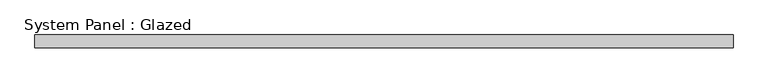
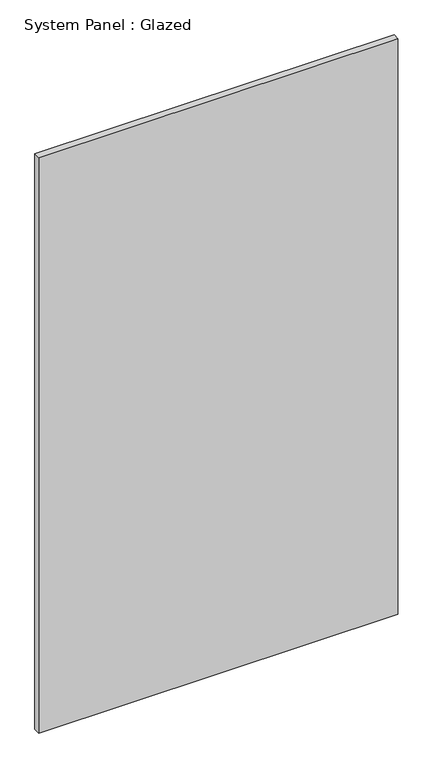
"""IFC4 building model written with IfcOpenShell, lengths in millimetres: plate geometry, System Panel : Glazed."""

import ifcopenshell
import ifcopenshell.guid

model = None  # the IFC model being written
_history = None  # IfcOwnerHistory: only IFC2X3 demands one
_inside = {}  # id of a spatial element -> (the spatial element, [elements in it])
_under = {}  # id of a project, library or spatial element -> (it, [spatial elements below it])
_declared = {}  # id of a project -> (the project, [libraries it declares])
_typed = {}  # id of a type object -> (the type object, [elements of that type])
_made_of = {}  # id of a material, layer set ... -> (it, [elements and type objects made of it])


def new_model(schema):
    """Start an empty IFC model of exactly this schema.

    Asked for "IFC4X3", IfcOpenShell would pick the latest addendum, in which some entities
    have other attributes; the version numbers below select the first issue.
    IFC2X3 requires an IfcOwnerHistory on every rooted entity: one is made here for all.
    """
    global model, _history
    if schema == "IFC4X3":
        model = ifcopenshell.file(schema_version=(4, 3, 0, 0))
    else:
        model = ifcopenshell.file(schema=schema)
    _inside.clear()
    _under.clear()
    _declared.clear()
    _typed.clear()
    _made_of.clear()
    _history = None
    if model.schema == "IFC2X3":
        org = make("IfcOrganization", Name="unknown")
        user = make(
            "IfcPersonAndOrganization",
            ThePerson=make("IfcPerson", FamilyName="unknown"),
            TheOrganization=org,
        )
        app = make(
            "IfcApplication",
            ApplicationDeveloper=org,
            Version="unknown",
            ApplicationFullName="unknown",
            ApplicationIdentifier="unknown",
        )
        _history = make(
            "IfcOwnerHistory",
            OwningUser=user,
            OwningApplication=app,
            ChangeAction="ADDED",
            CreationDate=0,
        )
    return model


def make(cls, **values):
    """One entity of the class cls with the attributes given. An attribute that is None is left unset."""
    return model.create_entity(
        cls, **{name: value for name, value in values.items() if value is not None}
    )


def rooted(cls, **values):
    """An entity with a GlobalId (a new one), such as an element, a storey or a relation."""
    return make(cls, GlobalId=ifcopenshell.guid.new(), OwnerHistory=_history, **values)


def si_unit(unit_type, name, prefix=None):
    """IfcSIUnit, for example si_unit("LENGTHUNIT", "METRE", prefix="MILLI")."""
    return make("IfcSIUnit", UnitType=unit_type, Prefix=prefix, Name=name)


def assignment(units):
    """IfcUnitAssignment: the units of a project."""
    return None if units is None else make("IfcUnitAssignment", Units=units)


def point(xyz):
    """IfcCartesianPoint."""
    return None if xyz is None else make("IfcCartesianPoint", Coordinates=xyz)


def direction(xyz):
    """IfcDirection."""
    return None if xyz is None else make("IfcDirection", DirectionRatios=xyz)


def frame(location, z_axis=None, x_axis=None):
    """IfcAxis2Placement3D, a coordinate frame: its origin and axes. An axis left out is left unset."""
    return make(
        "IfcAxis2Placement3D",
        Location=point(location),
        Axis=direction(z_axis),
        RefDirection=direction(x_axis),
    )


def origin():
    """The frame at (0, 0, 0) with its axes left unset."""
    return frame((0.0, 0.0, 0.0))


def origin_with_axes():
    """The frame at (0, 0, 0) with the z axis (0, 0, 1) and the x axis (1, 0, 0) written out."""
    return frame((0.0, 0.0, 0.0), z_axis=(0.0, 0.0, 1.0), x_axis=(1.0, 0.0, 0.0))


def place(relative_to, where):
    """IfcLocalPlacement: puts the frame where relative to a parent placement (None: the world)."""
    return make(
        "IfcLocalPlacement", PlacementRelTo=relative_to, RelativePlacement=where
    )


def context(
    kind, dimensions, precision=None, world=None, true_north=None, identifier=None
):
    """IfcGeometricRepresentationContext, for example the 3D "Model" context."""
    return make(
        "IfcGeometricRepresentationContext",
        ContextIdentifier=identifier,
        ContextType=kind,
        CoordinateSpaceDimension=dimensions,
        Precision=precision,
        WorldCoordinateSystem=world,
        TrueNorth=true_north,
    )


def project(units=None, contexts=None):
    """IfcProject with its units and contexts."""
    return rooted(
        "IfcProject",
        Name="project",
        RepresentationContexts=contexts,
        UnitsInContext=assignment(units),
    )


def spatial(cls, under=None, at=None, **own):
    """A site, building, storey or space (cls), placed at a placement, below another one or the project."""
    s = rooted(cls, ObjectPlacement=at, **own)
    if under is not None:
        _under.setdefault(under.id(), (under, []))[1].append(s)
    return s


def polyline(points):
    """IfcPolyline through the points."""
    return make("IfcPolyline", Points=[point(p) for p in points])


def outline(outer, holes=None, kind="AREA"):
    """IfcArbitraryClosedProfileDef: a profile drawn as a closed curve; with holes, ...WithVoids."""
    if holes is None:
        return make("IfcArbitraryClosedProfileDef", ProfileType=kind, OuterCurve=outer)
    return make(
        "IfcArbitraryProfileDefWithVoids",
        ProfileType=kind,
        OuterCurve=outer,
        InnerCurves=holes,
    )


def extrude(swept, where, along, depth):
    """IfcExtrudedAreaSolid: the profile swept, set in the frame where, extruded along a direction by depth."""
    return make(
        "IfcExtrudedAreaSolid",
        SweptArea=swept,
        Position=where,
        ExtrudedDirection=direction(along),
        Depth=depth,
    )


def shape(context_of_items, identifier, shape_type, items):
    """IfcShapeRepresentation: the items that make up one representation, for example the "Body"."""
    return make(
        "IfcShapeRepresentation",
        ContextOfItems=context_of_items,
        RepresentationIdentifier=identifier,
        RepresentationType=shape_type,
        Items=items,
    )


def source(mapping_origin, context_of_items, identifier, shape_type, items):
    """IfcRepresentationMap: a shape defined once, which mapped items show again and again."""
    return make(
        "IfcRepresentationMap",
        MappingOrigin=mapping_origin,
        MappedRepresentation=shape(context_of_items, identifier, shape_type, items),
    )


def transform(
    local_origin,
    x_axis=None,
    y_axis=None,
    z_axis=None,
    scale=None,
    scale2=None,
    scale3=None,
    uniform=True,
):
    """IfcCartesianTransformationOperator3D, or its non-uniform kind. x_axis, y_axis, z_axis: its Axis1, 2, 3."""
    if uniform:
        return make(
            "IfcCartesianTransformationOperator3D",
            Axis1=direction(x_axis),
            Axis2=direction(y_axis),
            LocalOrigin=point(local_origin),
            Scale=scale,
            Axis3=direction(z_axis),
        )
    return make(
        "IfcCartesianTransformationOperator3DnonUniform",
        Axis1=direction(x_axis),
        Axis2=direction(y_axis),
        LocalOrigin=point(local_origin),
        Scale=scale,
        Axis3=direction(z_axis),
        Scale2=scale2,
        Scale3=scale3,
    )


def mapped(mapping_source, mapping_target):
    """IfcMappedItem: shows the shape of a source again, moved by a transform."""
    return make(
        "IfcMappedItem", MappingSource=mapping_source, MappingTarget=mapping_target
    )


def made_of(thing, what):
    """Note that an element or type object is made of a material, layer set ...; save() writes the relation."""
    if what is not None:
        _made_of.setdefault(what.id(), (what, []))[1].append(thing)
    return thing


def element(
    cls,
    number,
    at=None,
    inside=None,
    cuts=None,
    type_object=None,
    material=None,
    context=None,
    identifier="Body",
    shape_type=None,
    held_by="IfcProductDefinitionShape",
    body=None,
    shapes=None,
    **own,
):
    """One element of the class cls, such as IfcWall. Its Tag is "e" and its number.

    at: its placement. inside: the storey or other place that contains it. cuts: it is an
    opening in that element (IfcRelVoidsElement). A single representation is given by context,
    identifier, shape_type and body (its items); several are given by shapes. held_by: the class
    of the entity that holds the representations. save() writes the other relations.
    """
    e = rooted(cls, Tag="e%d" % number, ObjectPlacement=at, **own)
    if body is not None:
        shapes = [shape(context, identifier, shape_type, body)]
    if shapes is not None:
        e.Representation = make(held_by, Representations=shapes)
    if inside is not None:
        _inside.setdefault(inside.id(), (inside, []))[1].append(e)
    if cuts is not None:
        rooted(
            "IfcRelVoidsElement", RelatingBuildingElement=cuts, RelatedOpeningElement=e
        )
    if type_object is not None:
        _typed.setdefault(type_object.id(), (type_object, []))[1].append(e)
    return made_of(e, material)


def aggregate(whole, parts):
    """IfcRelAggregates: a whole, such as a stair, and the parts it consists of."""
    return rooted("IfcRelAggregates", RelatingObject=whole, RelatedObjects=parts)


def save(model, path):
    """Write the relations noted so far, then the file.

    IfcRelAggregates (storeys below a building ...), IfcRelContainedInSpatialStructure (elements
    in a storey), IfcRelDefinesByType, IfcRelAssociatesMaterial and IfcRelDeclares: one each for
    every whole, place, type object, material and project.
    """
    for whole, parts in _under.values():
        aggregate(whole, parts)
    for where, things in _inside.values():
        rooted(
            "IfcRelContainedInSpatialStructure",
            RelatedElements=things,
            RelatingStructure=where,
        )
    for kind, things in _typed.values():
        rooted("IfcRelDefinesByType", RelatedObjects=things, RelatingType=kind)
    for what, things in _made_of.values():
        rooted("IfcRelAssociatesMaterial", RelatedObjects=things, RelatingMaterial=what)
    for by, libraries in _declared.values():
        rooted("IfcRelDeclares", RelatingContext=by, RelatedDefinitions=libraries)
    model.write(path)


def system_panel_glazed_2f55ef0c(model_context):
    return source(origin(), model_context, "Body", "SweptSolid", [
        extrude(outline(polyline([(686.1999999, -49.5), (-686.1999999, -49.5), (-686.1999999, -24.5), (686.1999999, -24.5), (686.1999999, -49.5)])), origin_with_axes(), (0.0, 0.0, 1.0), 2325.0),
    ])


if __name__ == "__main__":
    model = new_model("IFC4")
    model_context = context("Model", 3, world=origin())
    ifc_project = project(units=[si_unit("LENGTHUNIT", "METRE", prefix="MILLI")], contexts=[model_context])
    site = spatial("IfcSite", under=ifc_project)
    building = spatial("IfcBuilding", under=site)
    placement = place(None, origin())
    system_panel_glazed_shape = system_panel_glazed_2f55ef0c(model_context)
    element("IfcPlate", 1, ObjectType="System Panel : Glazed", at=placement, inside=building, context=model_context, shape_type="MappedRepresentation", body=[
        mapped(system_panel_glazed_shape, transform((0.0, 0.0, 0.0), x_axis=(1.0, 0.0, 0.0), y_axis=(0.0, 1.0, 0.0), z_axis=(0.0, 0.0, 1.0))),
    ])
    save(model, "model.ifc")
